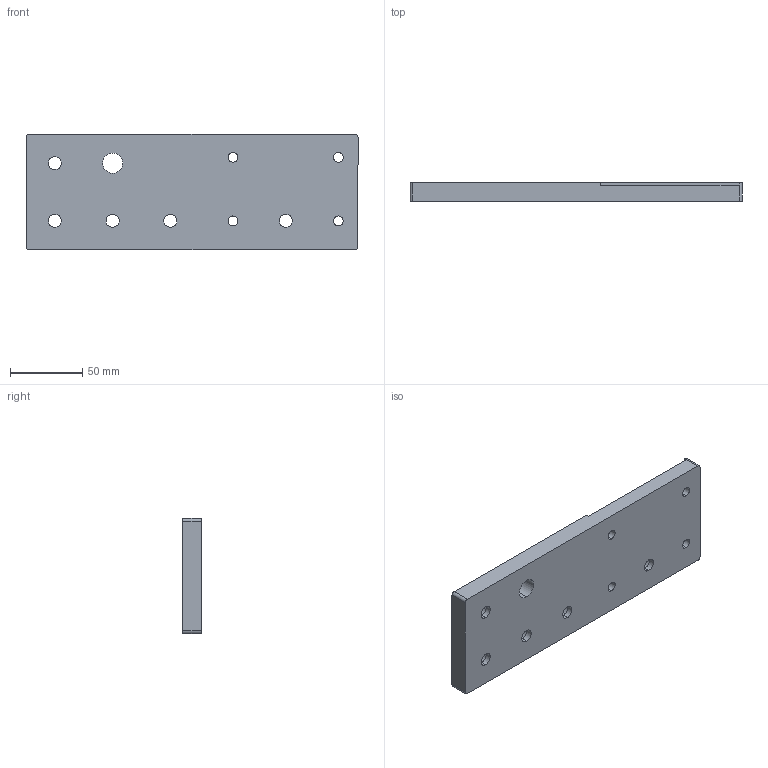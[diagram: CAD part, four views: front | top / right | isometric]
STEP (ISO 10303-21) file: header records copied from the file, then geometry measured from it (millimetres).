
FILE_DESCRIPTION (( 'STEP AP203' ), '1' );
FILE_NAME ('PF0880230NL.STEP', '2024-02-19T08:01:38', ( '' ), ( '' ), 'SwSTEP 2.0', 'SolidWorks 2022', '' );
FILE_SCHEMA (( 'CONFIG_CONTROL_DESIGN' ));
Length unit declared in the file: millimetre
Products named in the file (1): PF0880230NL
Bounding box: 230 x 13 x 80 mm (x, y, z)
Volume: 213446.2 mm3; surface area: 47838 mm2
Topology: 1 solids, 1 shells, 49 faces, 125 edges, 83 vertices
Faces by surface type: cylinder 34, plane 15
Entity records: 1636 total; most frequent: DIRECTION 293, CARTESIAN_POINT 258, ORIENTED_EDGE 250, EDGE_CURVE 125, AXIS2_PLACEMENT_3D 118, VERTEX_POINT 83, EDGE_LOOP 74, CIRCLE 68
